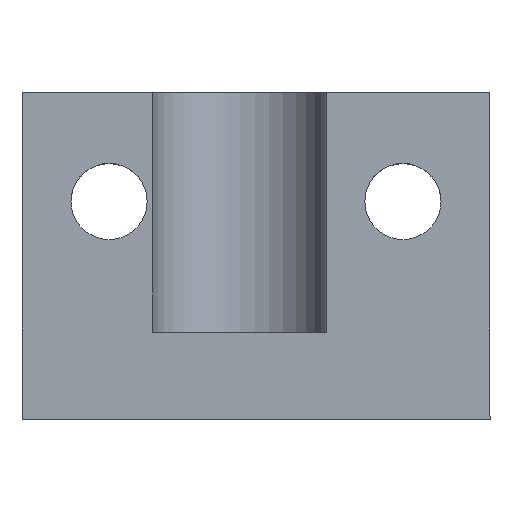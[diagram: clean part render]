
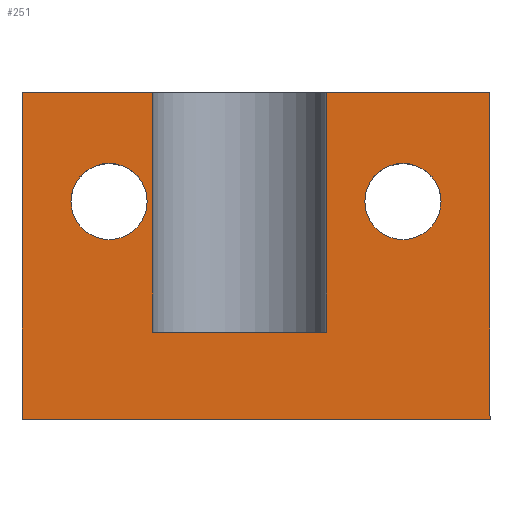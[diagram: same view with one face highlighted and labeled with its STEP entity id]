
A CAD part, top view. The second image highlights one B-rep face of the part: STEP entity #251.
In plain terms, the highlighted planar face has unit normal (0, 0, 1) as drawn and (-1, 0, 0) by its records, which use the part's own axes.
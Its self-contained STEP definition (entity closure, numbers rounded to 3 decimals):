
#21=FACE_BOUND('',#65,.T.);
#22=FACE_BOUND('',#66,.T.);
#25=CIRCLE('',#282,1.75);
#26=CIRCLE('',#284,1.75);
#34=PLANE('',#290);
#48=FACE_OUTER_BOUND('',#64,.T.);
#64=EDGE_LOOP('',(#218,#219,#220,#221,#222,#223,#224,#225));
#65=EDGE_LOOP('',(#226));
#66=EDGE_LOOP('',(#227));
#81=LINE('',#399,#103);
#83=LINE('',#403,#105);
#87=LINE('',#421,#109);
#88=LINE('',#425,#110);
#89=LINE('',#428,#111);
#91=LINE('',#432,#113);
#92=LINE('',#433,#114);
#93=LINE('',#435,#115);
#103=VECTOR('',#324,10.);
#105=VECTOR('',#328,10.);
#109=VECTOR('',#348,10.);
#110=VECTOR('',#351,10.);
#111=VECTOR('',#356,10.);
#113=VECTOR('',#360,10.);
#114=VECTOR('',#361,10.);
#115=VECTOR('',#364,10.);
#124=VERTEX_POINT('',#396);
#125=VERTEX_POINT('',#398);
#126=VERTEX_POINT('',#402);
#129=VERTEX_POINT('',#411);
#130=VERTEX_POINT('',#415);
#131=VERTEX_POINT('',#419);
#132=VERTEX_POINT('',#420);
#133=VERTEX_POINT('',#422);
#134=VERTEX_POINT('',#424);
#135=VERTEX_POINT('',#430);
#149=EDGE_CURVE('',#124,#125,#81,.T.);
#151=EDGE_CURVE('',#125,#126,#83,.T.);
#156=EDGE_CURVE('',#129,#129,#25,.T.);
#158=EDGE_CURVE('',#130,#130,#26,.T.);
#159=EDGE_CURVE('',#131,#132,#87,.T.);
#161=EDGE_CURVE('',#133,#134,#88,.T.);
#163=EDGE_CURVE('',#134,#131,#89,.T.);
#165=EDGE_CURVE('',#133,#135,#91,.T.);
#166=EDGE_CURVE('',#124,#132,#92,.T.);
#167=EDGE_CURVE('',#135,#126,#93,.T.);
#218=ORIENTED_EDGE('',*,*,#159,.F.);
#219=ORIENTED_EDGE('',*,*,#163,.F.);
#220=ORIENTED_EDGE('',*,*,#161,.F.);
#221=ORIENTED_EDGE('',*,*,#165,.T.);
#222=ORIENTED_EDGE('',*,*,#167,.T.);
#223=ORIENTED_EDGE('',*,*,#151,.F.);
#224=ORIENTED_EDGE('',*,*,#149,.F.);
#225=ORIENTED_EDGE('',*,*,#166,.T.);
#226=ORIENTED_EDGE('',*,*,#156,.F.);
#227=ORIENTED_EDGE('',*,*,#158,.F.);
#251=ADVANCED_FACE('',(#48,#21,#22),#34,.F.);
#282=AXIS2_PLACEMENT_3D('',#413,#339,#340);
#284=AXIS2_PLACEMENT_3D('',#417,#344,#345);
#290=AXIS2_PLACEMENT_3D('',#434,#362,#363);
#324=DIRECTION('',(0.,0.,1.));
#328=DIRECTION('',(0.,-1.,0.));
#339=DIRECTION('center_axis',(-1.,0.,0.));
#340=DIRECTION('ref_axis',(0.,0.,1.));
#344=DIRECTION('center_axis',(-1.,0.,0.));
#345=DIRECTION('ref_axis',(0.,0.,1.));
#348=DIRECTION('',(0.,0.,-1.));
#351=DIRECTION('',(0.,0.,1.));
#356=DIRECTION('',(0.,1.,0.));
#360=DIRECTION('',(0.,-1.,0.));
#361=DIRECTION('',(0.,-1.,0.));
#362=DIRECTION('center_axis',(1.,0.,0.));
#363=DIRECTION('ref_axis',(0.,0.,1.));
#364=DIRECTION('',(0.,0.,1.));
#396=CARTESIAN_POINT('',(12.,349.5,-20.));
#398=CARTESIAN_POINT('',(12.,349.5,-5.));
#399=CARTESIAN_POINT('',(12.,349.5,-18.5));
#402=CARTESIAN_POINT('',(12.,328.,-5.));
#403=CARTESIAN_POINT('',(12.,365.,-5.));
#411=CARTESIAN_POINT('',(12.,345.5,-16.75));
#413=CARTESIAN_POINT('Origin',(12.,345.5,-15.));
#415=CARTESIAN_POINT('',(12.,332.,-16.75));
#417=CARTESIAN_POINT('Origin',(12.,332.,-15.));
#419=CARTESIAN_POINT('',(12.,342.,-9.));
#420=CARTESIAN_POINT('',(12.,342.,-20.));
#421=CARTESIAN_POINT('',(12.,342.,-10.));
#422=CARTESIAN_POINT('',(12.,334.,-20.));
#424=CARTESIAN_POINT('',(12.,334.,-9.));
#425=CARTESIAN_POINT('',(12.,334.,-10.));
#428=CARTESIAN_POINT('',(12.,343.875,-9.));
#430=CARTESIAN_POINT('',(12.,328.,-20.));
#432=CARTESIAN_POINT('',(12.,365.,-20.));
#433=CARTESIAN_POINT('',(12.,365.,-20.));
#434=CARTESIAN_POINT('Origin',(12.,365.,-20.));
#435=CARTESIAN_POINT('',(12.,328.,-5.));
